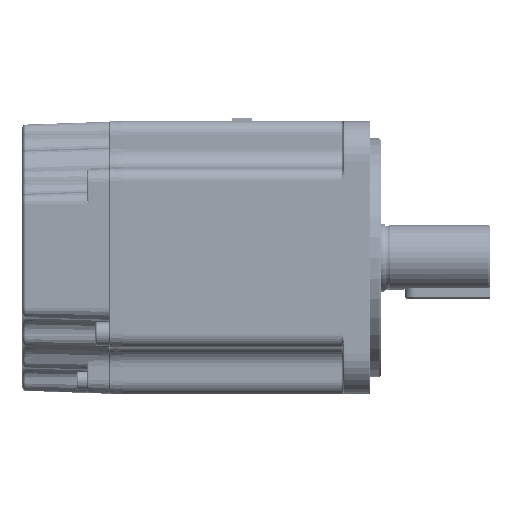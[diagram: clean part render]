
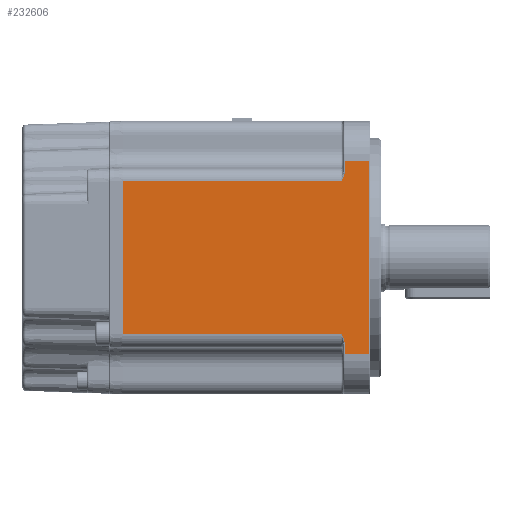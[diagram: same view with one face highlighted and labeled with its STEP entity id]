
A CAD part, left-side view. The second image highlights one B-rep face of the part: STEP entity #232606.
In plain terms, the highlighted planar face has unit normal (-1, 0, 0).
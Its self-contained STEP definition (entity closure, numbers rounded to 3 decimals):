
#479 = AXIS2_PLACEMENT_3D ( 'NONE', #115946, #15476, #97408 ) ;
#1721 = VERTEX_POINT ( 'NONE', #23867 ) ;
#4807 = CARTESIAN_POINT ( 'NONE',  ( -40., -110.737, -28.3 ) ) ;
#6152 = VECTOR ( 'NONE', #151844, 1000. ) ;
#6898 = ORIENTED_EDGE ( 'NONE', *, *, #199588, .T. ) ;
#10170 = EDGE_CURVE ( 'NONE', #130398, #1721, #18992, .T. ) ;
#11512 = CARTESIAN_POINT ( 'NONE',  ( -40., 10.5, 28.3 ) ) ;
#13071 = CARTESIAN_POINT ( 'NONE',  ( -40., 10.657, -24.133 ) ) ;
#13331 = EDGE_CURVE ( 'NONE', #202421, #217678, #99009, .T. ) ;
#15027 = EDGE_CURVE ( 'NONE', #1721, #76654, #133743, .T. ) ;
#15476 = DIRECTION ( 'NONE',  ( -1., 0., 0. ) ) ;
#17261 = EDGE_CURVE ( 'NONE', #169154, #131752, #187992, .T. ) ;
#17353 = CARTESIAN_POINT ( 'NONE',  ( -40., 10.5, -28.3 ) ) ;
#18981 = CARTESIAN_POINT ( 'NONE',  ( -40., 10.739, 23.891 ) ) ;
#18992 = B_SPLINE_CURVE_WITH_KNOTS ( 'NONE', 3,
 ( #54053, #191569, #88509, #253603, #13071, #113535, #132074, #130781 ),
 .UNSPECIFIED., .F., .F.,
 ( 4, 2, 2, 4 ),
 ( 0., 0.001, 0.002, 0.003 ),
 .UNSPECIFIED. ) ;
#23867 = CARTESIAN_POINT ( 'NONE',  ( -40., 10.5, -25.128 ) ) ;
#28457 = ORIENTED_EDGE ( 'NONE', *, *, #214222, .T. ) ;
#31598 = VERTEX_POINT ( 'NONE', #143393 ) ;
#40768 = B_SPLINE_CURVE_WITH_KNOTS ( 'NONE', 3,
 ( #181469, #141871, #243595, #260775, #18981, #41427, #240975, #103518 ),
 .UNSPECIFIED., .F., .F.,
 ( 4, 2, 2, 4 ),
 ( 0., 0.001, 0.002, 0.003 ),
 .UNSPECIFIED. ) ;
#41427 = CARTESIAN_POINT ( 'NONE',  ( -40., 11.023, 23.19 ) ) ;
#42041 = CARTESIAN_POINT ( 'NONE',  ( -40., 11.5, -22.3 ) ) ;
#52763 = ORIENTED_EDGE ( 'NONE', *, *, #15027, .T. ) ;
#53924 = VERTEX_POINT ( 'NONE', #170668 ) ;
#54053 = CARTESIAN_POINT ( 'NONE',  ( -40., 11.5, -22.3 ) ) ;
#54852 = VECTOR ( 'NONE', #163735, 1000. ) ;
#55046 = CARTESIAN_POINT ( 'NONE',  ( -40., 3.3, -28.3 ) ) ;
#57762 = PLANE ( 'NONE',  #479 ) ;
#61436 = ORIENTED_EDGE ( 'NONE', *, *, #202802, .F. ) ;
#72590 = CARTESIAN_POINT ( 'NONE',  ( -40., -110.737, 28.3 ) ) ;
#75777 = VECTOR ( 'NONE', #95373, 1000. ) ;
#76074 = CARTESIAN_POINT ( 'NONE',  ( -40., 15.4, 22.3 ) ) ;
#76654 = VERTEX_POINT ( 'NONE', #214376 ) ;
#80243 = VECTOR ( 'NONE', #159750, 1000. ) ;
#80836 = VECTOR ( 'NONE', #104771, 1000. ) ;
#87292 = EDGE_CURVE ( 'NONE', #251879, #31598, #97654, .T. ) ;
#87723 = CARTESIAN_POINT ( 'NONE',  ( -40., 75.4, 22.3 ) ) ;
#88509 = CARTESIAN_POINT ( 'NONE',  ( -40., 11.023, -23.19 ) ) ;
#95373 = DIRECTION ( 'NONE',  ( 0., 0., -1. ) ) ;
#97408 = DIRECTION ( 'NONE',  ( 0., 0., 1. ) ) ;
#97654 = LINE ( 'NONE', #113596, #80243 ) ;
#99009 = LINE ( 'NONE', #223221, #54852 ) ;
#103518 = CARTESIAN_POINT ( 'NONE',  ( -40., 11.5, 22.3 ) ) ;
#104771 = DIRECTION ( 'NONE',  ( 0., 0., 1. ) ) ;
#113535 = CARTESIAN_POINT ( 'NONE',  ( -40., 10.537, -24.624 ) ) ;
#113596 = CARTESIAN_POINT ( 'NONE',  ( -40., 10.5, 22.3 ) ) ;
#115946 = CARTESIAN_POINT ( 'NONE',  ( -40., -110.737, 28.3 ) ) ;
#116645 = ORIENTED_EDGE ( 'NONE', *, *, #10170, .T. ) ;
#121047 = CARTESIAN_POINT ( 'NONE',  ( -40., 3.3, 28.3 ) ) ;
#122692 = EDGE_CURVE ( 'NONE', #202421, #130398, #175787, .T. ) ;
#126733 = CARTESIAN_POINT ( 'NONE',  ( -40., 75.4, -22.3 ) ) ;
#130398 = VERTEX_POINT ( 'NONE', #42041 ) ;
#130781 = CARTESIAN_POINT ( 'NONE',  ( -40., 10.5, -25.128 ) ) ;
#131752 = VERTEX_POINT ( 'NONE', #121047 ) ;
#131998 = LINE ( 'NONE', #76074, #6152 ) ;
#132074 = CARTESIAN_POINT ( 'NONE',  ( -40., 10.5, -24.873 ) ) ;
#133743 = LINE ( 'NONE', #17353, #75777 ) ;
#137463 = CARTESIAN_POINT ( 'NONE',  ( -40., 11., -22.3 ) ) ;
#138249 = ORIENTED_EDGE ( 'NONE', *, *, #122692, .T. ) ;
#141871 = CARTESIAN_POINT ( 'NONE',  ( -40., 10.5, 24.873 ) ) ;
#143393 = CARTESIAN_POINT ( 'NONE',  ( -40., 10.5, 25.128 ) ) ;
#150165 = DIRECTION ( 'NONE',  ( 0., 1., 0. ) ) ;
#151844 = DIRECTION ( 'NONE',  ( 0., 1., 0. ) ) ;
#151922 = DIRECTION ( 'NONE',  ( 0., 1., 0. ) ) ;
#159750 = DIRECTION ( 'NONE',  ( 0., 0., -1. ) ) ;
#163735 = DIRECTION ( 'NONE',  ( 0., 0., 1. ) ) ;
#169154 = VERTEX_POINT ( 'NONE', #55046 ) ;
#170668 = CARTESIAN_POINT ( 'NONE',  ( -40., 11.5, 22.3 ) ) ;
#173835 = VECTOR ( 'NONE', #257676, 1000. ) ;
#175787 = LINE ( 'NONE', #137463, #173835 ) ;
#181469 = CARTESIAN_POINT ( 'NONE',  ( -40., 10.5, 25.128 ) ) ;
#186697 = CARTESIAN_POINT ( 'NONE',  ( -40., 3.3, 28.3 ) ) ;
#187992 = LINE ( 'NONE', #186697, #80836 ) ;
#191567 = LINE ( 'NONE', #72590, #207187 ) ;
#191569 = CARTESIAN_POINT ( 'NONE',  ( -40., 11.262, -22.744 ) ) ;
#199588 = EDGE_CURVE ( 'NONE', #53924, #217678, #131998, .T. ) ;
#202421 = VERTEX_POINT ( 'NONE', #126733 ) ;
#202802 = EDGE_CURVE ( 'NONE', #169154, #76654, #245373, .T. ) ;
#207187 = VECTOR ( 'NONE', #151922, 1000. ) ;
#211551 = ORIENTED_EDGE ( 'NONE', *, *, #17261, .T. ) ;
#211558 = ORIENTED_EDGE ( 'NONE', *, *, #13331, .F. ) ;
#214222 = EDGE_CURVE ( 'NONE', #31598, #53924, #40768, .T. ) ;
#214376 = CARTESIAN_POINT ( 'NONE',  ( -40., 10.5, -28.3 ) ) ;
#217678 = VERTEX_POINT ( 'NONE', #87723 ) ;
#217718 = FACE_OUTER_BOUND ( 'NONE', #231359, .T. ) ;
#223221 = CARTESIAN_POINT ( 'NONE',  ( -40., 75.4, 28.3 ) ) ;
#224312 = ORIENTED_EDGE ( 'NONE', *, *, #249266, .T. ) ;
#231359 = EDGE_LOOP ( 'NONE', ( #211558, #138249, #116645, #52763, #61436, #211551, #224312, #247344, #28457, #6898 ) ) ;
#232606 = ADVANCED_FACE ( 'NONE', ( #217718 ), #57762, .T. ) ;
#240975 = CARTESIAN_POINT ( 'NONE',  ( -40., 11.262, 22.745 ) ) ;
#243595 = CARTESIAN_POINT ( 'NONE',  ( -40., 10.537, 24.624 ) ) ;
#245373 = LINE ( 'NONE', #4807, #251375 ) ;
#247344 = ORIENTED_EDGE ( 'NONE', *, *, #87292, .T. ) ;
#249266 = EDGE_CURVE ( 'NONE', #131752, #251879, #191567, .T. ) ;
#251375 = VECTOR ( 'NONE', #150165, 1000. ) ;
#251879 = VERTEX_POINT ( 'NONE', #11512 ) ;
#253603 = CARTESIAN_POINT ( 'NONE',  ( -40., 10.739, -23.891 ) ) ;
#257676 = DIRECTION ( 'NONE',  ( 0., -1., 0. ) ) ;
#260775 = CARTESIAN_POINT ( 'NONE',  ( -40., 10.657, 24.133 ) ) ;
